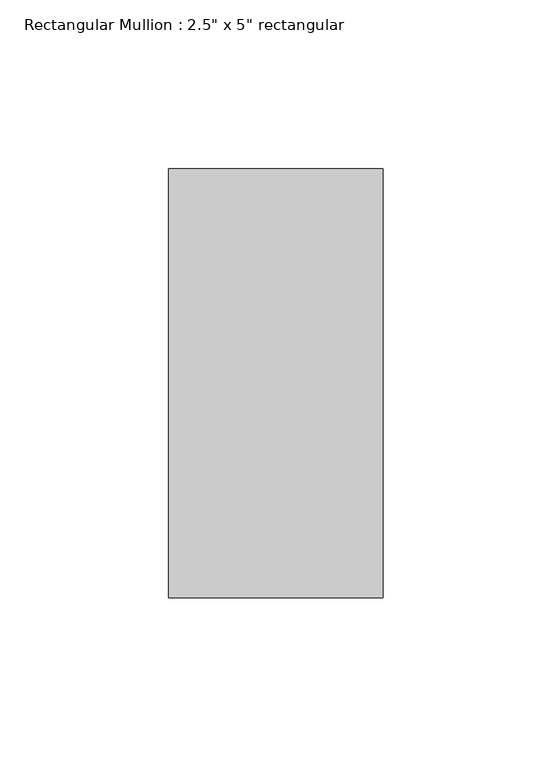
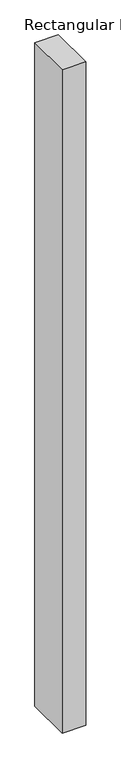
"""IFC4 building model written with IfcOpenShell, lengths in millimetres: member geometry."""

import ifcopenshell
import ifcopenshell.guid

model = None  # the IFC model being written
_history = None  # IfcOwnerHistory: only IFC2X3 demands one
_inside = {}  # id of a spatial element -> (the spatial element, [elements in it])
_under = {}  # id of a project, library or spatial element -> (it, [spatial elements below it])
_declared = {}  # id of a project -> (the project, [libraries it declares])
_typed = {}  # id of a type object -> (the type object, [elements of that type])
_made_of = {}  # id of a material, layer set ... -> (it, [elements and type objects made of it])


def new_model(schema):
    """Start an empty IFC model of exactly this schema.

    Asked for "IFC4X3", IfcOpenShell would pick the latest addendum, in which some entities
    have other attributes; the version numbers below select the first issue.
    IFC2X3 requires an IfcOwnerHistory on every rooted entity: one is made here for all.
    """
    global model, _history
    if schema == "IFC4X3":
        model = ifcopenshell.file(schema_version=(4, 3, 0, 0))
    else:
        model = ifcopenshell.file(schema=schema)
    _inside.clear()
    _under.clear()
    _declared.clear()
    _typed.clear()
    _made_of.clear()
    _history = None
    if model.schema == "IFC2X3":
        org = make("IfcOrganization", Name="unknown")
        user = make(
            "IfcPersonAndOrganization",
            ThePerson=make("IfcPerson", FamilyName="unknown"),
            TheOrganization=org,
        )
        app = make(
            "IfcApplication",
            ApplicationDeveloper=org,
            Version="unknown",
            ApplicationFullName="unknown",
            ApplicationIdentifier="unknown",
        )
        _history = make(
            "IfcOwnerHistory",
            OwningUser=user,
            OwningApplication=app,
            ChangeAction="ADDED",
            CreationDate=0,
        )
    return model


def make(cls, **values):
    """One entity of the class cls with the attributes given. An attribute that is None is left unset."""
    return model.create_entity(
        cls, **{name: value for name, value in values.items() if value is not None}
    )


def rooted(cls, **values):
    """An entity with a GlobalId (a new one), such as an element, a storey or a relation."""
    return make(cls, GlobalId=ifcopenshell.guid.new(), OwnerHistory=_history, **values)


def si_unit(unit_type, name, prefix=None):
    """IfcSIUnit, for example si_unit("LENGTHUNIT", "METRE", prefix="MILLI")."""
    return make("IfcSIUnit", UnitType=unit_type, Prefix=prefix, Name=name)


def assignment(units):
    """IfcUnitAssignment: the units of a project."""
    return None if units is None else make("IfcUnitAssignment", Units=units)


def point(xyz):
    """IfcCartesianPoint."""
    return None if xyz is None else make("IfcCartesianPoint", Coordinates=xyz)


def direction(xyz):
    """IfcDirection."""
    return None if xyz is None else make("IfcDirection", DirectionRatios=xyz)


def frame(location, z_axis=None, x_axis=None):
    """IfcAxis2Placement3D, a coordinate frame: its origin and axes. An axis left out is left unset."""
    return make(
        "IfcAxis2Placement3D",
        Location=point(location),
        Axis=direction(z_axis),
        RefDirection=direction(x_axis),
    )


def origin():
    """The frame at (0, 0, 0) with its axes left unset."""
    return frame((0.0, 0.0, 0.0))


def place(relative_to, where):
    """IfcLocalPlacement: puts the frame where relative to a parent placement (None: the world)."""
    return make(
        "IfcLocalPlacement", PlacementRelTo=relative_to, RelativePlacement=where
    )


def context(
    kind, dimensions, precision=None, world=None, true_north=None, identifier=None
):
    """IfcGeometricRepresentationContext, for example the 3D "Model" context."""
    return make(
        "IfcGeometricRepresentationContext",
        ContextIdentifier=identifier,
        ContextType=kind,
        CoordinateSpaceDimension=dimensions,
        Precision=precision,
        WorldCoordinateSystem=world,
        TrueNorth=true_north,
    )


def project(units=None, contexts=None):
    """IfcProject with its units and contexts."""
    return rooted(
        "IfcProject",
        Name="project",
        RepresentationContexts=contexts,
        UnitsInContext=assignment(units),
    )


def spatial(cls, under=None, at=None, **own):
    """A site, building, storey or space (cls), placed at a placement, below another one or the project."""
    s = rooted(cls, ObjectPlacement=at, **own)
    if under is not None:
        _under.setdefault(under.id(), (under, []))[1].append(s)
    return s


def polyline(points):
    """IfcPolyline through the points."""
    return make("IfcPolyline", Points=[point(p) for p in points])


def outline(outer, holes=None, kind="AREA"):
    """IfcArbitraryClosedProfileDef: a profile drawn as a closed curve; with holes, ...WithVoids."""
    if holes is None:
        return make("IfcArbitraryClosedProfileDef", ProfileType=kind, OuterCurve=outer)
    return make(
        "IfcArbitraryProfileDefWithVoids",
        ProfileType=kind,
        OuterCurve=outer,
        InnerCurves=holes,
    )


def extrude(swept, where, along, depth):
    """IfcExtrudedAreaSolid: the profile swept, set in the frame where, extruded along a direction by depth."""
    return make(
        "IfcExtrudedAreaSolid",
        SweptArea=swept,
        Position=where,
        ExtrudedDirection=direction(along),
        Depth=depth,
    )


def shape(context_of_items, identifier, shape_type, items):
    """IfcShapeRepresentation: the items that make up one representation, for example the "Body"."""
    return make(
        "IfcShapeRepresentation",
        ContextOfItems=context_of_items,
        RepresentationIdentifier=identifier,
        RepresentationType=shape_type,
        Items=items,
    )


def source(mapping_origin, context_of_items, identifier, shape_type, items):
    """IfcRepresentationMap: a shape defined once, which mapped items show again and again."""
    return make(
        "IfcRepresentationMap",
        MappingOrigin=mapping_origin,
        MappedRepresentation=shape(context_of_items, identifier, shape_type, items),
    )


def transform(
    local_origin,
    x_axis=None,
    y_axis=None,
    z_axis=None,
    scale=None,
    scale2=None,
    scale3=None,
    uniform=True,
):
    """IfcCartesianTransformationOperator3D, or its non-uniform kind. x_axis, y_axis, z_axis: its Axis1, 2, 3."""
    if uniform:
        return make(
            "IfcCartesianTransformationOperator3D",
            Axis1=direction(x_axis),
            Axis2=direction(y_axis),
            LocalOrigin=point(local_origin),
            Scale=scale,
            Axis3=direction(z_axis),
        )
    return make(
        "IfcCartesianTransformationOperator3DnonUniform",
        Axis1=direction(x_axis),
        Axis2=direction(y_axis),
        LocalOrigin=point(local_origin),
        Scale=scale,
        Axis3=direction(z_axis),
        Scale2=scale2,
        Scale3=scale3,
    )


def mapped(mapping_source, mapping_target):
    """IfcMappedItem: shows the shape of a source again, moved by a transform."""
    return make(
        "IfcMappedItem", MappingSource=mapping_source, MappingTarget=mapping_target
    )


def made_of(thing, what):
    """Note that an element or type object is made of a material, layer set ...; save() writes the relation."""
    if what is not None:
        _made_of.setdefault(what.id(), (what, []))[1].append(thing)
    return thing


def element(
    cls,
    number,
    at=None,
    inside=None,
    cuts=None,
    type_object=None,
    material=None,
    context=None,
    identifier="Body",
    shape_type=None,
    held_by="IfcProductDefinitionShape",
    body=None,
    shapes=None,
    **own,
):
    """One element of the class cls, such as IfcWall. Its Tag is "e" and its number.

    at: its placement. inside: the storey or other place that contains it. cuts: it is an
    opening in that element (IfcRelVoidsElement). A single representation is given by context,
    identifier, shape_type and body (its items); several are given by shapes. held_by: the class
    of the entity that holds the representations. save() writes the other relations.
    """
    e = rooted(cls, Tag="e%d" % number, ObjectPlacement=at, **own)
    if body is not None:
        shapes = [shape(context, identifier, shape_type, body)]
    if shapes is not None:
        e.Representation = make(held_by, Representations=shapes)
    if inside is not None:
        _inside.setdefault(inside.id(), (inside, []))[1].append(e)
    if cuts is not None:
        rooted(
            "IfcRelVoidsElement", RelatingBuildingElement=cuts, RelatedOpeningElement=e
        )
    if type_object is not None:
        _typed.setdefault(type_object.id(), (type_object, []))[1].append(e)
    return made_of(e, material)


def aggregate(whole, parts):
    """IfcRelAggregates: a whole, such as a stair, and the parts it consists of."""
    return rooted("IfcRelAggregates", RelatingObject=whole, RelatedObjects=parts)


def save(model, path):
    """Write the relations noted so far, then the file.

    IfcRelAggregates (storeys below a building ...), IfcRelContainedInSpatialStructure (elements
    in a storey), IfcRelDefinesByType, IfcRelAssociatesMaterial and IfcRelDeclares: one each for
    every whole, place, type object, material and project.
    """
    for whole, parts in _under.values():
        aggregate(whole, parts)
    for where, things in _inside.values():
        rooted(
            "IfcRelContainedInSpatialStructure",
            RelatedElements=things,
            RelatingStructure=where,
        )
    for kind, things in _typed.values():
        rooted("IfcRelDefinesByType", RelatedObjects=things, RelatingType=kind)
    for what, things in _made_of.values():
        rooted("IfcRelAssociatesMaterial", RelatedObjects=things, RelatingMaterial=what)
    for by, libraries in _declared.values():
        rooted("IfcRelDeclares", RelatingContext=by, RelatedDefinitions=libraries)
    model.write(path)


def member_51dbde35(model_context):
    return source(origin(), model_context, "Body", "SweptSolid", [
        extrude(outline(polyline([(31.75, 63.5), (31.75, -63.5), (-31.75, -63.5), (-31.75, 63.5), (31.75, 63.5)])), frame((0.0, 0.0, -1892.3), z_axis=(0.0, 0.0, 1.0), x_axis=(1.0, 0.0, 0.0)), (0.0, 0.0, 1.0), 1892.3),
    ])


if __name__ == "__main__":
    model = new_model("IFC4")
    model_context = context("Model", 3, world=origin())
    ifc_project = project(units=[si_unit("LENGTHUNIT", "METRE", prefix="MILLI")], contexts=[model_context])
    site = spatial("IfcSite", under=ifc_project)
    building = spatial("IfcBuilding", under=site)
    placement = place(None, origin())
    member_shape = member_51dbde35(model_context)
    element("IfcMember", 1, ObjectType="Rectangular Mullion : 2.5\" x 5\" rectangular", at=placement, inside=building, context=model_context, shape_type="MappedRepresentation", body=[
        mapped(member_shape, transform((0.0, 0.0, 0.0), x_axis=(1.0, 0.0, 0.0), y_axis=(0.0, 1.0, 0.0), z_axis=(0.0, 0.0, 1.0))),
    ])
    save(model, "model.ifc")
